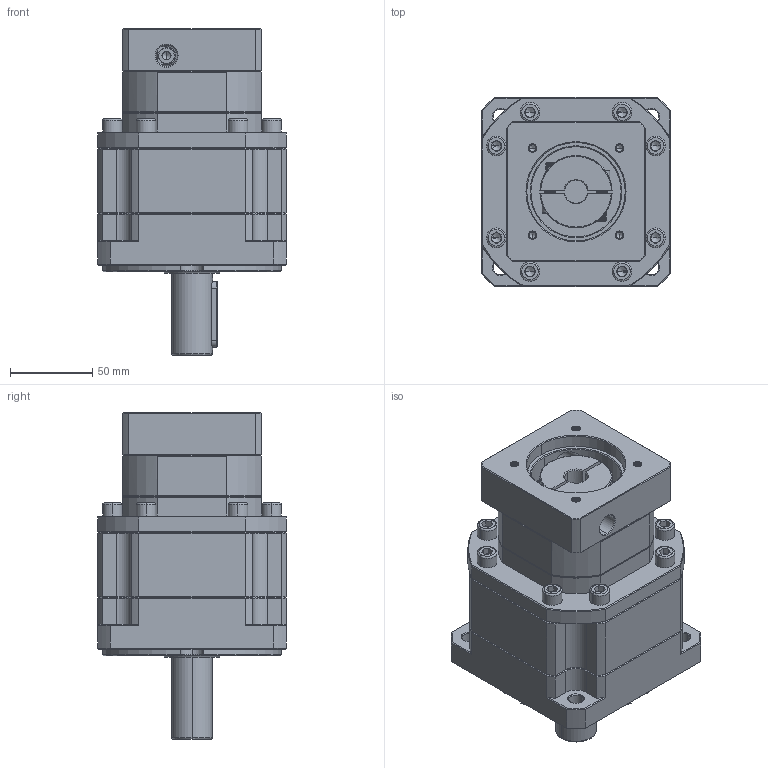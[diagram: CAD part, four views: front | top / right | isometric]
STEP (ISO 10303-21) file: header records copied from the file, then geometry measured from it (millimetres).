
FILE_DESCRIPTION (( 'STEP AP214' ), '1' );
FILE_NAME ('ZB115A-D25-L2-P2-14-60-75-M5.step', '2023-08-26T09:59:05', ( '' ), ( '' ), 'SwSTEP 2.0', 'SolidWorks 2016', '' );
FILE_SCHEMA (( 'AUTOMOTIVE_DESIGN' ));
Length unit declared in the file: millimetre
Products named in the file (1): ZB115A-D25-L2-P2-14-60-75-M5
Bounding box: 115 x 115 x 199 mm (x, y, z)
Volume: 1372215.8 mm3; surface area: 132231.8 mm2
Topology: 5 solids, 6 shells, 2416 faces, 6335 edges, 4021 vertices
Faces by surface type: plane 1186, bspline 427, cylinder 425, cone 363, torus 15
Entity records: 128389 total; most frequent: CARTESIAN_POINT 45958, ORIENTED_EDGE 12594, DIRECTION 9971, EDGE_CURVE 6297, LINE 4043, VECTOR 4043, VERTEX_POINT 4021, AXIS2_PLACEMENT_3D 2964
